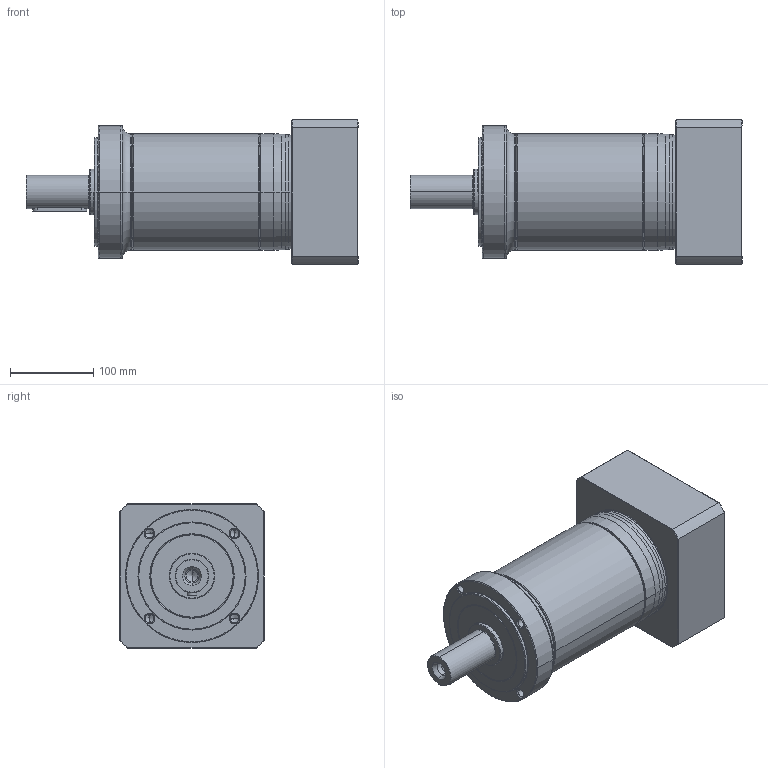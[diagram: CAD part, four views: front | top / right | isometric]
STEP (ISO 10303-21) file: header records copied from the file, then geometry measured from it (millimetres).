
FILE_DESCRIPTION((''),'2;1');
FILE_NAME('PG2-160_3ST_38-P0411900101_ASM','2016-04-19T',('d01943'),(''),'PRO/ENGINEER BY PARAMETRIC TECHNOLOGY CORPORATION, 2008410','PRO/ENGINEER BY PARAMETRIC TECHNOLOGY CORPORATION, 2008410','');
FILE_SCHEMA(('CONFIG_CONTROL_DESIGN'));
Length unit declared in the file: millimetre
Products named in the file (9): P1325510001; P0273500001; P1324500501; P0350501103; P0411900101; P0503900010; P0941505001; P1702600001; PG2-160_3ST_38-P0411900101_ASM
Assembly tree (8 placements, depth 2):
  PG2-160_3ST_38-P0411900101_ASM
    P1325510001
    P0273500001
    P1324500501
    P0350501103
    P0411900101
    P0503900010
    P0941505001
    P1702600001
Bounding box: 399.5 x 174 x 174 mm (x, y, z)
Volume: 4217413.2 mm3; surface area: 498011.6 mm2
Topology: 8 solids, 9 shells, 478 faces, 1042 edges, 600 vertices
Faces by surface type: cylinder 143, cone 140, torus 98, plane 79, bspline 18
Entity records: 17681 total; most frequent: CARTESIAN_POINT 6946, DIRECTION 2458, ORIENTED_EDGE 2028, AXIS2_PLACEMENT_3D 1056, EDGE_CURVE 1014, VERTEX_POINT 600, CIRCLE 579, EDGE_LOOP 542
